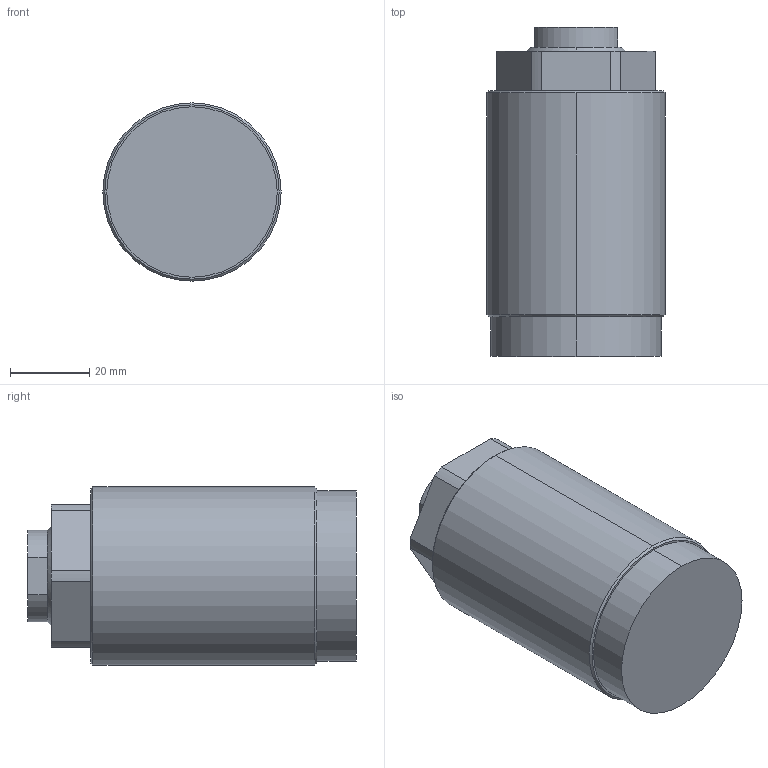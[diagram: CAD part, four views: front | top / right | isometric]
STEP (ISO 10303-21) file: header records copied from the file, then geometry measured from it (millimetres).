
FILE_DESCRIPTION (( 'STEP AP214' ), '1' );
FILE_NAME ('SP-T25B.STEP', '2021-10-19T00:40:16', ( '' ), ( '' ), 'SwSTEP 2.0', 'SolidWorks 2016', '' );
FILE_SCHEMA (( 'AUTOMOTIVE_DESIGN' ));
Length unit declared in the file: millimetre
Products named in the file (1): SP-T25B
Bounding box: 45 x 83 x 45 mm (x, y, z)
Volume: 117701.4 mm3; surface area: 14514.6 mm2
Topology: 1 solids, 1 shells, 38 faces, 88 edges, 54 vertices
Faces by surface type: cylinder 15, plane 15, cone 8
Entity records: 1147 total; most frequent: DIRECTION 203, CARTESIAN_POINT 179, ORIENTED_EDGE 172, EDGE_CURVE 86, AXIS2_PLACEMENT_3D 78, VERTEX_POINT 54, LINE 47, VECTOR 47
